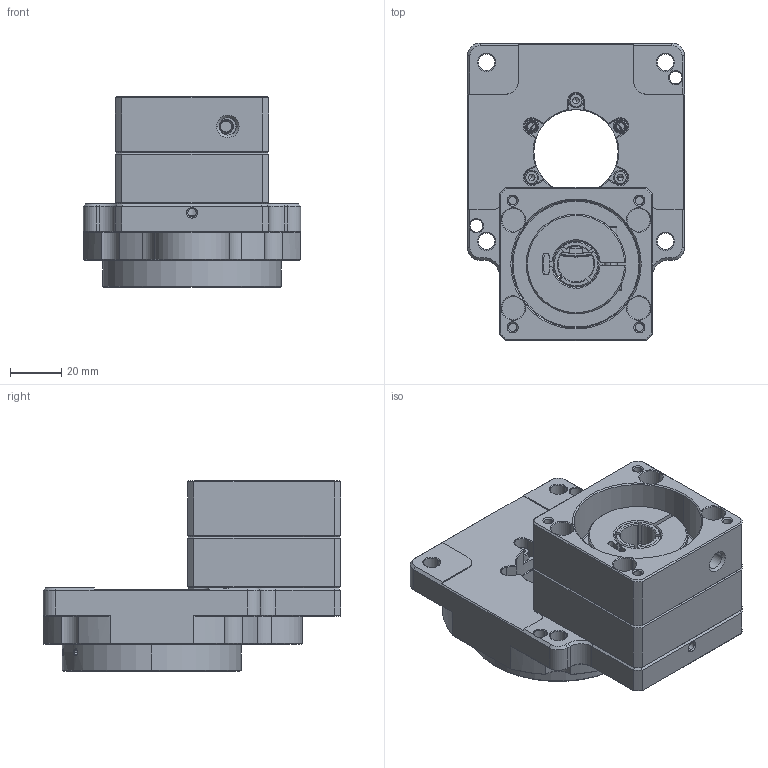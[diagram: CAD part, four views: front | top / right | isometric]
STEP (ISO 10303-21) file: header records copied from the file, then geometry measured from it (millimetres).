
FILE_DESCRIPTION (( 'STEP AP203' ), '1' );
FILE_NAME ('HRG85-10.STEP', '2020-06-24T05:39:06', ( '' ), ( '' ), 'SwSTEP 2.0', 'SolidWorks 2012', '' );
FILE_SCHEMA (( 'CONFIG_CONTROL_DESIGN' ));
Length unit declared in the file: millimetre
Products named in the file (1): HRG85-10
Bounding box: 85 x 116.5 x 74.7 mm (x, y, z)
Surface area: 63731.7 mm2 (no closed solid volume)
Topology: 0 solids, 26 shells, 560 faces, 1838 edges, 1284 vertices
Faces by surface type: plane 188, cone 176, cylinder 159, bspline 19, torus 18
Entity records: 23816 total; most frequent: CARTESIAN_POINT 7907, DIRECTION 3320, ORIENTED_EDGE 3021, EDGE_CURVE 1832, VERTEX_POINT 1284, AXIS2_PLACEMENT_3D 1218, VECTOR 884, LINE 884
